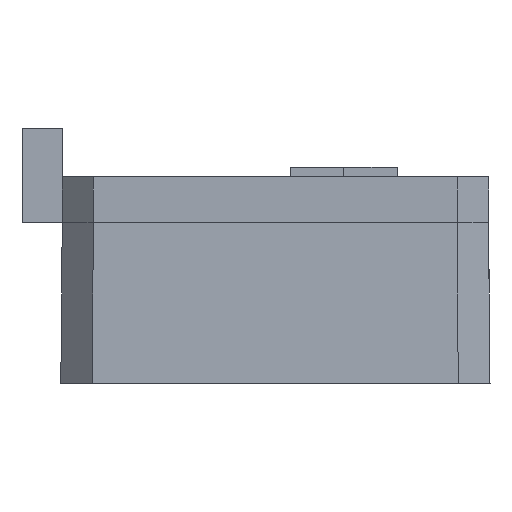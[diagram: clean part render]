
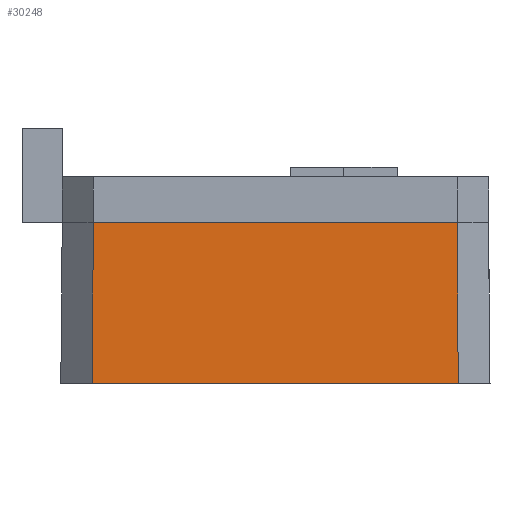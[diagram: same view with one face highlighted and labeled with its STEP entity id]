
A CAD part, left-side view. The second image highlights one B-rep face of the part: STEP entity #30248.
In plain terms, the highlighted planar face has unit normal (-1, 0, 0.009).
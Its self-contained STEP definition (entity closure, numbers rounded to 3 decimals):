
#752 = VECTOR ( 'NONE', #17365, 1000. ) ;
#5545 = VERTEX_POINT ( 'NONE', #45225 ) ;
#7314 = VECTOR ( 'NONE', #59048, 1000. ) ;
#7648 = LINE ( 'NONE', #31039, #55663 ) ;
#9327 = CARTESIAN_POINT ( 'NONE',  ( -64.19, -8.401, 13.006 ) ) ;
#11858 = LINE ( 'NONE', #17837, #34184 ) ;
#13403 = EDGE_CURVE ( 'NONE', #42798, #20005, #7648, .T. ) ;
#13859 = FACE_OUTER_BOUND ( 'NONE', #45511, .T. ) ;
#17365 = DIRECTION ( 'NONE',  ( 0., 1., 0. ) ) ;
#17422 = CARTESIAN_POINT ( 'NONE',  ( -64.348, 40.821, -6.994 ) ) ;
#17837 = CARTESIAN_POINT ( 'NONE',  ( -64.188, -4.551, 12.992 ) ) ;
#20005 = VERTEX_POINT ( 'NONE', #58371 ) ;
#26293 = DIRECTION ( 'NONE',  ( -0.009, 0., -1. ) ) ;
#30248 = ADVANCED_FACE ( 'NONE', ( #13859 ), #71274, .T. ) ;
#31039 = CARTESIAN_POINT ( 'NONE',  ( -64.19, -8.401, 13.006 ) ) ;
#33093 = ORIENTED_EDGE ( 'NONE', *, *, #65684, .T. ) ;
#34184 = VECTOR ( 'NONE', #70411, 1000. ) ;
#35541 = LINE ( 'NONE', #52508, #752 ) ;
#42798 = VERTEX_POINT ( 'NONE', #74640 ) ;
#45225 = CARTESIAN_POINT ( 'NONE',  ( -64.363, -4.624, -6.994 ) ) ;
#45511 = EDGE_LOOP ( 'NONE', ( #55797, #72986, #33093, #68732 ) ) ;
#46235 = CARTESIAN_POINT ( 'NONE',  ( -64.172, 40.748, 13.183 ) ) ;
#48775 = AXIS2_PLACEMENT_3D ( 'NONE', #9327, #66342, #26293 ) ;
#52428 = VERTEX_POINT ( 'NONE', #17422 ) ;
#52508 = CARTESIAN_POINT ( 'NONE',  ( -64.364, -8.401, -6.994 ) ) ;
#54073 = DIRECTION ( 'NONE',  ( 0., -1., 0. ) ) ;
#55663 = VECTOR ( 'NONE', #54073, 1000. ) ;
#55797 = ORIENTED_EDGE ( 'NONE', *, *, #61143, .T. ) ;
#58290 = LINE ( 'NONE', #46235, #7314 ) ;
#58371 = CARTESIAN_POINT ( 'NONE',  ( -64.188, -4.551, 13.006 ) ) ;
#59048 = DIRECTION ( 'NONE',  ( -0.009, 0.004, -1. ) ) ;
#61143 = EDGE_CURVE ( 'NONE', #5545, #20005, #11858, .T. ) ;
#63844 = EDGE_CURVE ( 'NONE', #5545, #52428, #35541, .T. ) ;
#65684 = EDGE_CURVE ( 'NONE', #42798, #52428, #58290, .T. ) ;
#66342 = DIRECTION ( 'NONE',  ( -1., 0., 0.009 ) ) ;
#68732 = ORIENTED_EDGE ( 'NONE', *, *, #63844, .F. ) ;
#70411 = DIRECTION ( 'NONE',  ( 0.009, 0.004, 1. ) ) ;
#71274 = PLANE ( 'NONE',  #48775 ) ;
#72986 = ORIENTED_EDGE ( 'NONE', *, *, #13403, .F. ) ;
#74640 = CARTESIAN_POINT ( 'NONE',  ( -64.174, 40.749, 13.006 ) ) ;
